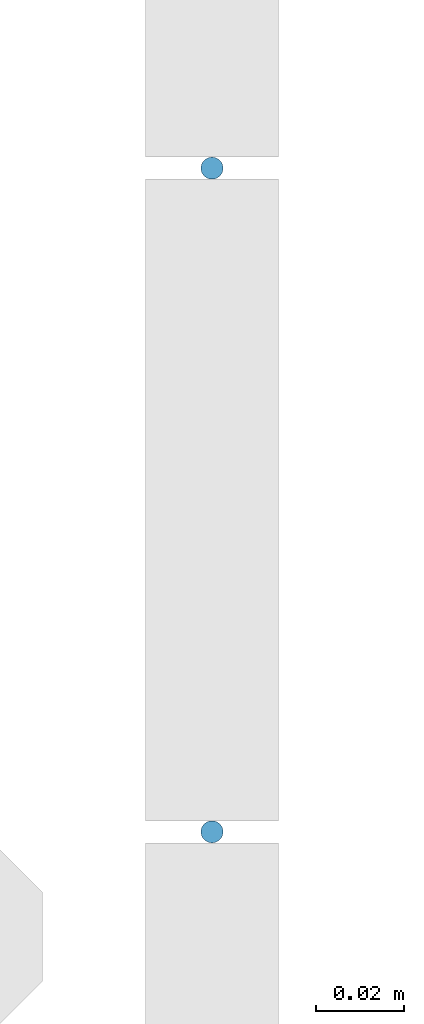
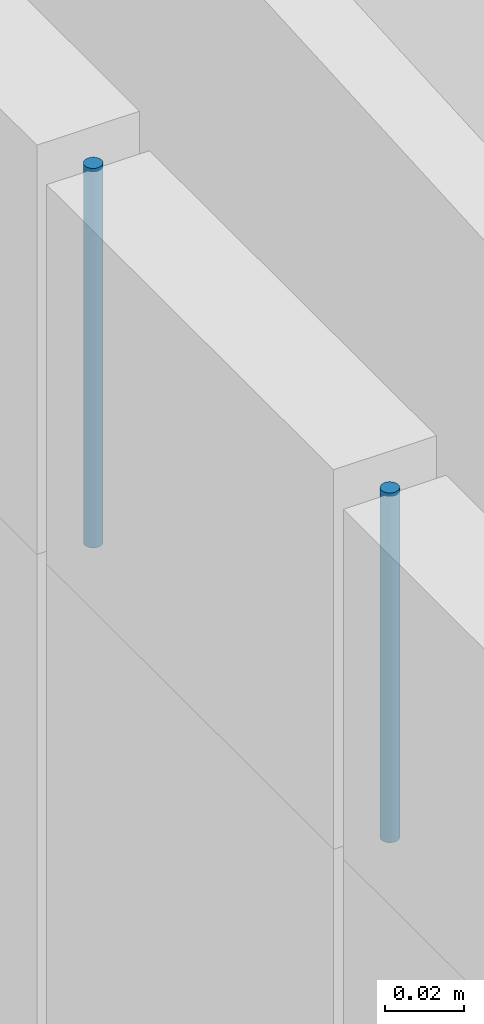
# One storey, part 55 of 81: 2 members, 1 element without a shape of its own.
"""IFC2X3 building model written with IfcOpenShell, lengths in metres."""

from ifc_helpers import new_model, entity, si_unit, converted_unit, derived_unit, direction, frame, frame_2d, origin, place, context, subcontext, project, spatial, circle, extrude, source, transform, mapped, material, type_object, type_shapes, element, aggregate, save


model = new_model("IFC2X3")

# Units and contexts
model_context = context("Model", 3, precision=1e-05, world=origin(), true_north=direction((6.12303176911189e-17, 1.0)))
body_context = subcontext(model_context, "Body", "Model", "MODEL_VIEW")
ifc_project = project(units=[si_unit("LENGTHUNIT", "METRE"), si_unit("AREAUNIT", "SQUARE_METRE"), si_unit("VOLUMEUNIT", "CUBIC_METRE"), converted_unit("PLANEANGLEUNIT", "DEGREE", entity("IfcRatioMeasure", 0.0174532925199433), si_unit("PLANEANGLEUNIT", "RADIAN"), dimensions=[0, 0, 0, 0, 0, 0, 0]), si_unit("MASSUNIT", "GRAM", prefix="KILO"), derived_unit("MASSDENSITYUNIT", [(si_unit("MASSUNIT", "GRAM", prefix="KILO"), 1), (si_unit("LENGTHUNIT", "METRE"), -3)]), derived_unit("MOMENTOFINERTIAUNIT", [(si_unit("LENGTHUNIT", "METRE"), 4)]), si_unit("TIMEUNIT", "SECOND"), si_unit("FREQUENCYUNIT", "HERTZ"), si_unit("THERMODYNAMICTEMPERATUREUNIT", "DEGREE_CELSIUS"), derived_unit("THERMALTRANSMITTANCEUNIT", [(si_unit("MASSUNIT", "GRAM", prefix="KILO"), 1), (si_unit("THERMODYNAMICTEMPERATUREUNIT", "KELVIN"), -1), (si_unit("TIMEUNIT", "SECOND"), -3)]), derived_unit("VOLUMETRICFLOWRATEUNIT", [(si_unit("LENGTHUNIT", "METRE"), 3), (si_unit("TIMEUNIT", "SECOND"), -1)]), si_unit("ELECTRICCURRENTUNIT", "AMPERE"), si_unit("ELECTRICVOLTAGEUNIT", "VOLT"), si_unit("POWERUNIT", "WATT"), si_unit("FORCEUNIT", "NEWTON", prefix="KILO"), si_unit("ILLUMINANCEUNIT", "LUX"), si_unit("LUMINOUSFLUXUNIT", "LUMEN"), si_unit("LUMINOUSINTENSITYUNIT", "CANDELA"), derived_unit("USERDEFINED", [(si_unit("MASSUNIT", "GRAM", prefix="KILO"), -1), (si_unit("LENGTHUNIT", "METRE"), -2), (si_unit("TIMEUNIT", "SECOND"), 3), (si_unit("LUMINOUSFLUXUNIT", "LUMEN"), 1)]), derived_unit("LINEARVELOCITYUNIT", [(si_unit("LENGTHUNIT", "METRE"), 1), (si_unit("TIMEUNIT", "SECOND"), -1)]), si_unit("PRESSUREUNIT", "PASCAL"), derived_unit("USERDEFINED", [(si_unit("LENGTHUNIT", "METRE"), -2), (si_unit("MASSUNIT", "GRAM", prefix="KILO"), 1), (si_unit("TIMEUNIT", "SECOND"), -2)]), derived_unit("LINEARFORCEUNIT", [(si_unit("MASSUNIT", "GRAM", prefix="KILO"), 1), (si_unit("LENGTHUNIT", "METRE"), 1), (si_unit("TIMEUNIT", "SECOND"), -2), (si_unit("LENGTHUNIT", "METRE"), -1)]), derived_unit("PLANARFORCEUNIT", [(si_unit("MASSUNIT", "GRAM", prefix="KILO"), 1), (si_unit("LENGTHUNIT", "METRE"), 1), (si_unit("TIMEUNIT", "SECOND"), -2), (si_unit("LENGTHUNIT", "METRE"), -2)])], contexts=[model_context])

# Site, building, storey
site_placement = place(None, origin())
site = spatial("IfcSite", under=ifc_project, at=site_placement, Name="Surface", CompositionType="ELEMENT")
building_placement = place(site_placement, origin())
building = spatial("IfcBuilding", under=site, at=building_placement, CompositionType="ELEMENT")
storey_placement = place(building_placement, origin())
storey = spatial("IfcBuildingStorey", under=building, at=storey_placement, Name="01 RDC", CompositionType="ELEMENT", Elevation=-1.94916083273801e-14)

# Curtain wall, members
curtain_wall_type = type_object("IfcCurtainWallType", Name="Mur-rideau:1m x 2m", PredefinedType="NOTDEFINED")
curtain_wall_placement = place(storey_placement, origin())
curtain_wall = element("IfcCurtainWall", 1, at=curtain_wall_placement, inside=storey, type_object=curtain_wall_type, Name="Mur-rideau:1m x 2m", ObjectType="Mur-rideau:1m x 2m")
ifc_material = material(Name="Aluminium - Vert")
member_type_1 = type_object("IfcMemberType", Name="Meneau circulaire:R-30 mm", PredefinedType="MULLION", material=ifc_material)
shared_shape_1 = source(origin(), body_context, "Body", "SweptSolid", [
    extrude(circle(Radius=0.0025, at=frame_2d((-2.64371857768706e-19, 1.93067515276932e-16), x_axis=(1.0, 0.0))), frame((0.0, 0.0, -0.117115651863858), z_axis=(0.0, 0.0, 1.0), x_axis=(-1.0, 0.0, 0.0)), (0.0, 0.0, 1.0), 0.117115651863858),
])
type_shapes(member_type_1, [shared_shape_1])
member_1_placement = place(storey_placement, frame((5.45983615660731, -6.00721095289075, 2.3), z_axis=(0.0, 0.0, -1.0), x_axis=(0.0, 1.0, 0.0)))
member_1 = element("IfcMember", 2, at=member_1_placement, type_object=member_type_1, material=ifc_material, Name="Meneau circulaire:R-30 mm", ObjectType="Meneau circulaire:R-30 mm", context=body_context, shape_type="MappedRepresentation", body=[
    mapped(shared_shape_1, transform((0.0, 0.0, 0.0), scale=1.0)),
])
member_type_2 = type_object("IfcMemberType", Name="Meneau circulaire:R-30 mm", PredefinedType="MULLION", material=ifc_material)
shared_shape_2 = source(origin(), body_context, "Body", "SweptSolid", [
    extrude(circle(Radius=0.0025, at=frame_2d((-2.53886796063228e-29, 1.78079504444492e-16), x_axis=(1.0, 0.0))), frame((0.0, 0.0, -0.107941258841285), z_axis=(0.0, 0.0, 1.0), x_axis=(-1.0, 0.0, 0.0)), (0.0, 0.0, 1.0), 0.107941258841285),
])
type_shapes(member_type_2, [shared_shape_2])
member_2_placement = place(storey_placement, frame((5.45983615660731, -6.15721095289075, 2.3), z_axis=(0.0, 0.0, -1.0), x_axis=(0.0, 1.0, 0.0)))
member_2 = element("IfcMember", 3, at=member_2_placement, type_object=member_type_2, material=ifc_material, Name="Meneau circulaire:R-30 mm", ObjectType="Meneau circulaire:R-30 mm", context=body_context, shape_type="MappedRepresentation", body=[
    mapped(shared_shape_2, transform((0.0, 0.0, 0.0), scale=1.0)),
])
aggregate(curtain_wall, [member_1, member_2])

save(model, "model.ifc")
